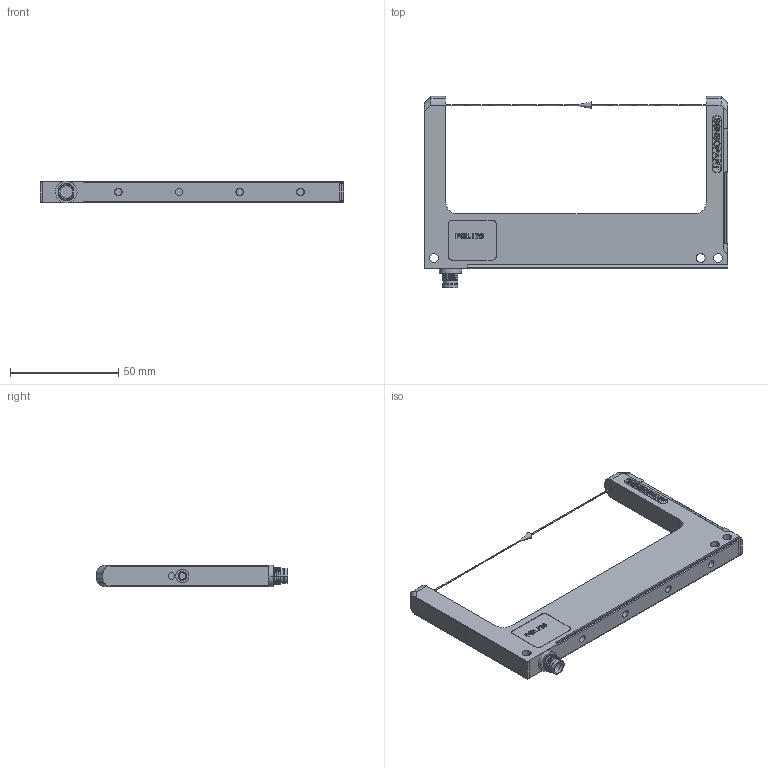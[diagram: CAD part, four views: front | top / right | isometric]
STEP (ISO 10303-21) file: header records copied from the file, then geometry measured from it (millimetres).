
FILE_DESCRIPTION((''),'2;1');
FILE_NAME('15300268_FGL120.stp','2015-11-19T11:08:42',(''),(''),'Mechanical Desktop 2009','Mechanical Desktop 2009',', , ');
FILE_SCHEMA(('CONFIG_CONTROL_DESIGN'));
Length unit declared in the file: millimetre
Products named in the file (9): DRAWING6; FGL 120; FGL120; DECKEL_SENDER_SCHWALBENSCHWANZ_VERSION4_50ER; ~TEIL1; ~DECKEL_EMPFAENGER_VERSION4_50ER; ~~~~TEIL1; ~WEICHTEIL; OPTISCHE_ACHSE_2
Assembly tree (8 placements, depth 4):
  DRAWING6
    FGL 120
      FGL120
      DECKEL_SENDER_SCHWALBENSCHWANZ_VERSION4_50ER
        ~TEIL1
      ~DECKEL_EMPFAENGER_VERSION4_50ER
        ~~~~TEIL1
        ~WEICHTEIL
      OPTISCHE_ACHSE_2
Bounding box: 140 x 88.1 x 10 mm (x, y, z)
Volume: 44468.8 mm3; surface area: 19961.8 mm2
Topology: 32 solids, 32 shells, 858 faces, 2210 edges, 1466 vertices
Faces by surface type: plane 357, bspline 329, cylinder 154, cone 18
Entity records: 47257 total; most frequent: CARTESIAN_POINT 28157, ORIENTED_EDGE 4420, DIRECTION 2929, EDGE_CURVE 2210, VERTEX_POINT 1466, VECTOR 1191, LINE 1191, EDGE_LOOP 920
